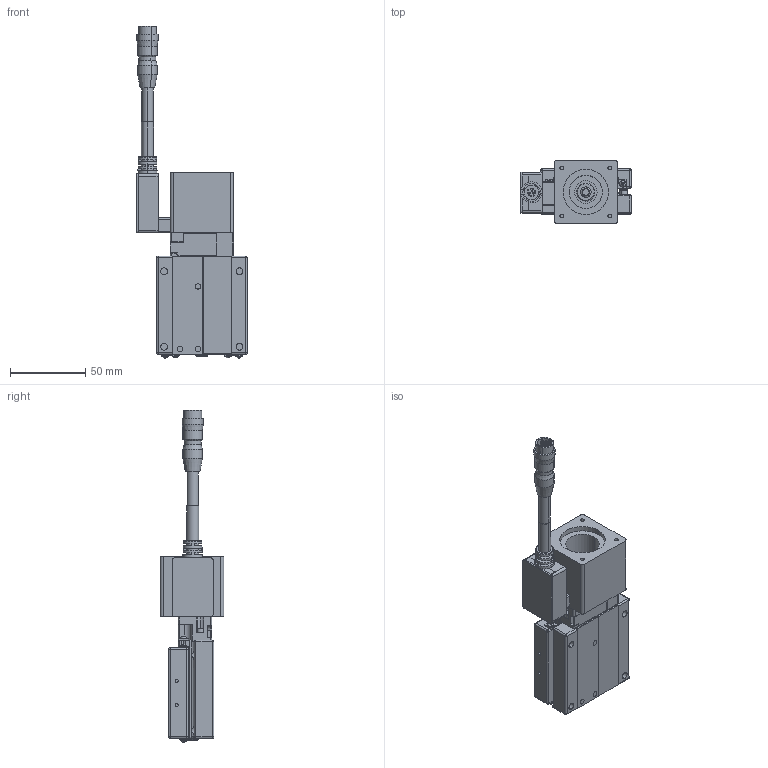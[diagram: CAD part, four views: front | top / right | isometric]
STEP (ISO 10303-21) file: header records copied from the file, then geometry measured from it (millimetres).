
FILE_DESCRIPTION (( 'STEP AP203' ), '1' );
FILE_NAME ('CXS6020(伺服P無馬達).STEP', '2023-12-12T00:17:24', ( '' ), ( '' ), 'SwSTEP 2.0', 'SolidWorks 2019', '' );
FILE_SCHEMA (( 'CONFIG_CONTROL_DESIGN' ));
Length unit declared in the file: millimetre
Products named in the file (4): CXS6020(伺服P無馬達); HR10A-10J-12P; Group2^CXS6020(伺服P無馬達)_defeature_GMT; Group1^CXS6020(伺服P無馬達)_defeature_GMT
Assembly tree (3 placements, depth 2):
  CXS6020(伺服P無馬達)
    Group1^CXS6020(伺服P無馬達)_defeature_GMT
    Group2^CXS6020(伺服P無馬達)_defeature_GMT
    HR10A-10J-12P
Bounding box: 73 x 42 x 219.93 mm (x, y, z)
Volume: 167084.3 mm3; surface area: 63654.6 mm2
Topology: 7 solids, 11 shells, 4484 faces, 11458 edges, 7208 vertices
Faces by surface type: plane 2393, bspline 1066, cylinder 715, cone 143, sphere 118, torus 49
Entity records: 147790 total; most frequent: CARTESIAN_POINT 47888, ORIENTED_EDGE 22724, DIRECTION 16723, EDGE_CURVE 11362, VERTEX_POINT 7208, VECTOR 6353, LINE 6353, AXIS2_PLACEMENT_3D 5185
